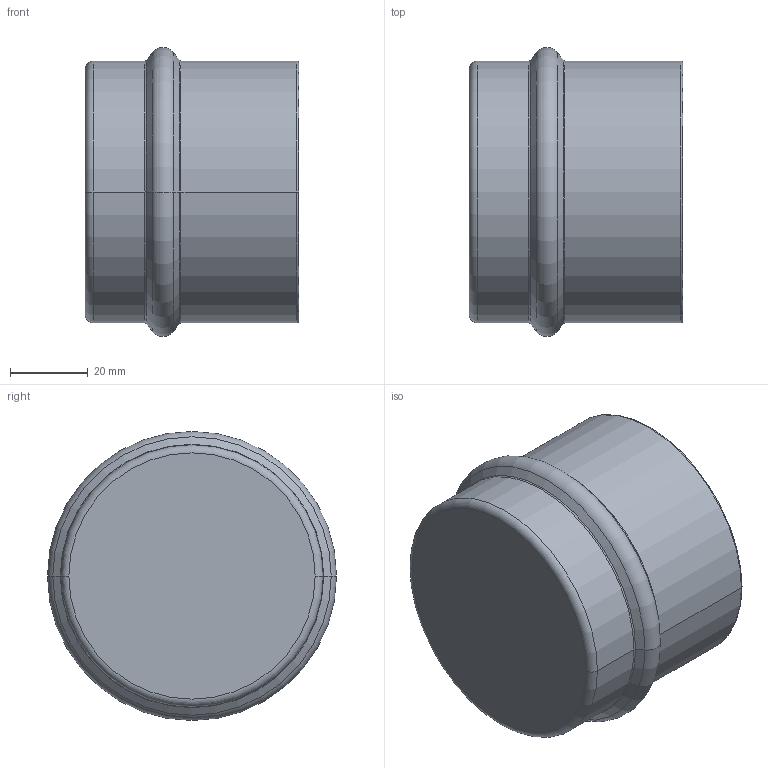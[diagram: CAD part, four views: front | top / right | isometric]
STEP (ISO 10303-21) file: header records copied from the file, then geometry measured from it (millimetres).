
FILE_DESCRIPTION((''),'2;1');
FILE_NAME('2014600600','2017-05-10T',('Administrator'),(''),'PRO/ENGINEER BY PARAMETRIC TECHNOLOGY CORPORATION, 2009360','PRO/ENGINEER BY PARAMETRIC TECHNOLOGY CORPORATION, 2009360','');
FILE_SCHEMA(('AUTOMOTIVE_DESIGN_CC2 { 1 2 10303 214 -1 1 5 2 }'));
Length unit declared in the file: millimetre
Products named in the file (1): 2014600600
Bounding box: 55 x 74.48 x 74.48 mm (x, y, z)
Volume: 68509.8 mm3; surface area: 27630.7 mm2
Topology: 1 solids, 1 shells, 25 faces, 48 edges, 26 vertices
Faces by surface type: torus 12, cylinder 6, cone 4, plane 3
Entity records: 811 total; most frequent: DIRECTION 136, CARTESIAN_POINT 99, ORIENTED_EDGE 96, AXIS2_PLACEMENT_3D 63, PRESENTATION_STYLE_ASSIGNMENT 49, STYLED_ITEM 49, CURVE_STYLE 48, EDGE_CURVE 48
